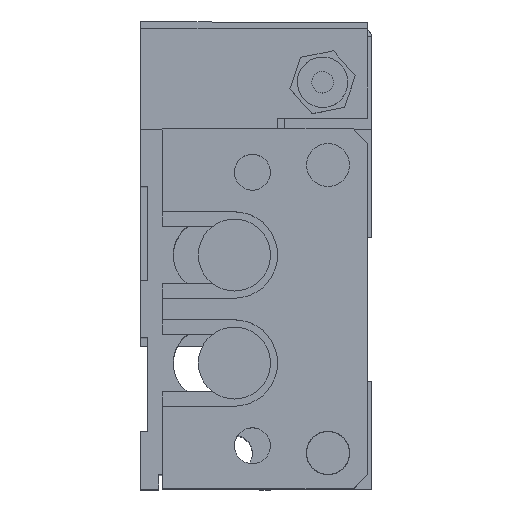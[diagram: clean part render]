
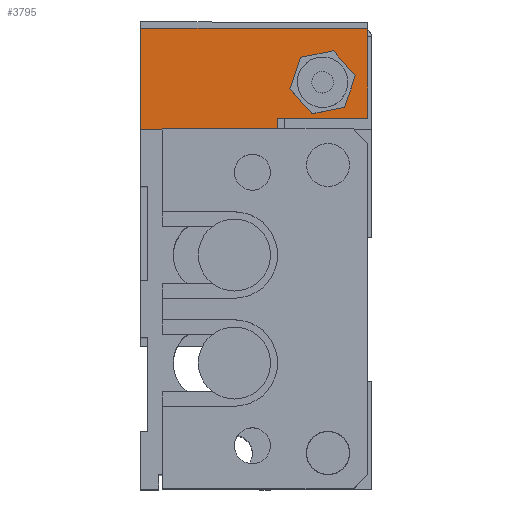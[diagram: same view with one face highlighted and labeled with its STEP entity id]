
A CAD part, top view. The second image highlights one B-rep face of the part: STEP entity #3795.
In plain terms, the highlighted planar face has unit normal (0, 0, 1) as drawn and (-1, 0, 0) by its records, which use the part's own axes.
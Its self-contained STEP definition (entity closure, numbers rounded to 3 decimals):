
#3739 = EDGE_CURVE ( 'NONE', #3754, #3766, #18704, .T. ) ;
#3744 = ORIENTED_EDGE ( 'NONE', *, *, #3756, .F. ) ;
#3748 = VERTEX_POINT ( 'NONE', #18750 ) ;
#3754 = VERTEX_POINT ( 'NONE', #18740 ) ;
#3756 = EDGE_CURVE ( 'NONE', #3766, #3754, #18755, .T. ) ;
#3766 = VERTEX_POINT ( 'NONE', #18733 ) ;
#3776 = EDGE_LOOP ( 'NONE', ( #3778, #3781, #3783, #3785, #3780, #3792 ) ) ;
#3777 = VERTEX_POINT ( 'NONE', #18772 ) ;
#3778 = ORIENTED_EDGE ( 'NONE', *, *, #3799, .F. ) ;
#3779 = EDGE_CURVE ( 'NONE', #3800, #3789, #18770, .T. ) ;
#3780 = ORIENTED_EDGE ( 'NONE', *, *, #3786, .F. ) ;
#3781 = ORIENTED_EDGE ( 'NONE', *, *, #3779, .T. ) ;
#3782 = EDGE_CURVE ( 'NONE', #3789, #3777, #18774, .T. ) ;
#3783 = ORIENTED_EDGE ( 'NONE', *, *, #3782, .T. ) ;
#3784 = EDGE_CURVE ( 'NONE', #3777, #3797, #18758, .T. ) ;
#3785 = ORIENTED_EDGE ( 'NONE', *, *, #3784, .T. ) ;
#3786 = EDGE_CURVE ( 'NONE', #3787, #3797, #18816, .T. ) ;
#3787 = VERTEX_POINT ( 'NONE', #18763 ) ;
#3789 = VERTEX_POINT ( 'NONE', #18818 ) ;
#3792 = ORIENTED_EDGE ( 'NONE', *, *, #3845, .F. ) ;
#3795 = ADVANCED_FACE ( 'NONE', ( #18804, #18819 ), #18764, .F. ) ;
#3796 = ORIENTED_EDGE ( 'NONE', *, *, #3739, .F. ) ;
#3797 = VERTEX_POINT ( 'NONE', #18801 ) ;
#3799 = EDGE_CURVE ( 'NONE', #3800, #3748, #18792, .T. ) ;
#3800 = VERTEX_POINT ( 'NONE', #18799 ) ;
#3808 = EDGE_LOOP ( 'NONE', ( #3744, #3796 ) ) ;
#3845 = EDGE_CURVE ( 'NONE', #3748, #3787, #18910, .T. ) ;
#18697 = DIRECTION ( 'NONE',  ( 0., 0., 1. ) ) ;
#18698 = DIRECTION ( 'NONE',  ( -1., 0., 0. ) ) ;
#18699 = CARTESIAN_POINT ( 'NONE',  ( -4.75, 9.5, 7.5 ) ) ;
#18700 = AXIS2_PLACEMENT_3D ( 'NONE', #18699, #18698, #18697 ) ;
#18704 = CIRCLE ( 'NONE', #18700, 3.5 ) ;
#18729 = DIRECTION ( 'NONE',  ( 0., 0., 1. ) ) ;
#18730 = DIRECTION ( 'NONE',  ( -1., 0., 0. ) ) ;
#18731 = AXIS2_PLACEMENT_3D ( 'NONE', #18739, #18730, #18729 ) ;
#18733 = CARTESIAN_POINT ( 'NONE',  ( -4.75, 9.5, 11. ) ) ;
#18739 = CARTESIAN_POINT ( 'NONE',  ( -4.75, 9.5, 7.5 ) ) ;
#18740 = CARTESIAN_POINT ( 'NONE',  ( -4.75, 9.5, 4. ) ) ;
#18750 = CARTESIAN_POINT ( 'NONE',  ( -4.75, 3.25, 15. ) ) ;
#18755 = CIRCLE ( 'NONE', #18731, 3.5 ) ;
#18757 = CARTESIAN_POINT ( 'NONE',  ( -4.75, 15.75, 0. ) ) ;
#18758 = LINE ( 'NONE', #18757, #18821 ) ;
#18760 = VECTOR ( 'NONE', #18775, 1000. ) ;
#18761 = DIRECTION ( 'NONE',  ( 0., 1., 0. ) ) ;
#18762 = VECTOR ( 'NONE', #18761, 1000. ) ;
#18763 = CARTESIAN_POINT ( 'NONE',  ( -4.75, -15.75, 15. ) ) ;
#18764 = PLANE ( 'NONE',  #18817 ) ;
#18769 = CARTESIAN_POINT ( 'NONE',  ( -4.75, 3.25, 12.5 ) ) ;
#18770 = LINE ( 'NONE', #18769, #18762 ) ;
#18772 = CARTESIAN_POINT ( 'NONE',  ( -4.75, 15.75, 0. ) ) ;
#18774 = LINE ( 'NONE', #18776, #18760 ) ;
#18775 = DIRECTION ( 'NONE',  ( 0., 0., -1. ) ) ;
#18776 = CARTESIAN_POINT ( 'NONE',  ( -4.75, 15.75, 15. ) ) ;
#18789 = DIRECTION ( 'NONE',  ( 0., 0., 1. ) ) ;
#18790 = VECTOR ( 'NONE', #18789, 1000. ) ;
#18791 = CARTESIAN_POINT ( 'NONE',  ( -4.75, 3.25, 15. ) ) ;
#18792 = LINE ( 'NONE', #18791, #18790 ) ;
#18796 = DIRECTION ( 'NONE',  ( 0., 0., -1. ) ) ;
#18797 = DIRECTION ( 'NONE',  ( 1., 0., 0. ) ) ;
#18798 = CARTESIAN_POINT ( 'NONE',  ( -4.75, 15.75, 15. ) ) ;
#18799 = CARTESIAN_POINT ( 'NONE',  ( -4.75, 3.25, 12.5 ) ) ;
#18801 = CARTESIAN_POINT ( 'NONE',  ( -4.75, -15.75, 0. ) ) ;
#18804 = FACE_BOUND ( 'NONE', #3808, .T. ) ;
#18813 = DIRECTION ( 'NONE',  ( 0., 0., -1. ) ) ;
#18814 = VECTOR ( 'NONE', #18813, 1000. ) ;
#18815 = CARTESIAN_POINT ( 'NONE',  ( -4.75, -15.75, 15. ) ) ;
#18816 = LINE ( 'NONE', #18815, #18814 ) ;
#18817 = AXIS2_PLACEMENT_3D ( 'NONE', #18798, #18797, #18796 ) ;
#18818 = CARTESIAN_POINT ( 'NONE',  ( -4.75, 15.75, 12.5 ) ) ;
#18819 = FACE_OUTER_BOUND ( 'NONE', #3776, .T. ) ;
#18820 = DIRECTION ( 'NONE',  ( 0., -1., 0. ) ) ;
#18821 = VECTOR ( 'NONE', #18820, 1000. ) ;
#18907 = DIRECTION ( 'NONE',  ( 0., -1., 0. ) ) ;
#18908 = VECTOR ( 'NONE', #18907, 1000. ) ;
#18909 = CARTESIAN_POINT ( 'NONE',  ( -4.75, 15.75, 15. ) ) ;
#18910 = LINE ( 'NONE', #18909, #18908 ) ;
